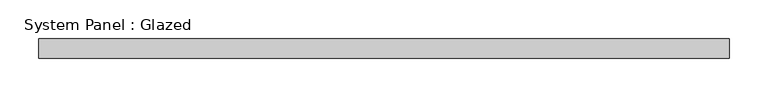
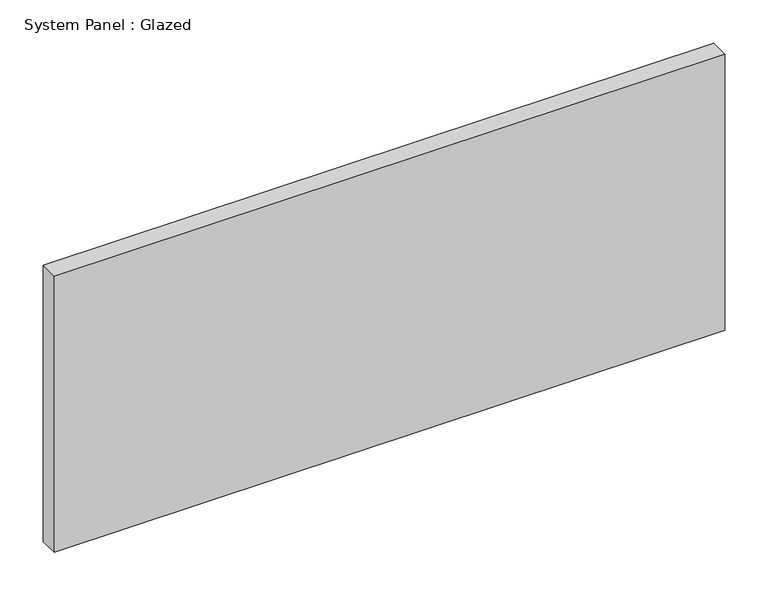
"""IFC4 building model written with IfcOpenShell, lengths in millimetres: plate geometry, System Panel : Glazed."""

from ifc_helpers import new_model, si_unit, origin, origin_with_axes, place, context, project, spatial, polyline, outline, extrude, source, transform, mapped, element, save


def system_panel_glazed_751737c8(model_context):
    return source(origin(), model_context, "Body", "SweptSolid", [
        extrude(outline(polyline([(447.675, 19.05), (-447.675, 19.05), (-447.675, 44.45), (447.675, 44.45), (447.675, 19.05)])), origin_with_axes(), (0.0, 0.0, 1.0), 389.9973635),
    ])


if __name__ == "__main__":
    model = new_model("IFC4")
    model_context = context("Model", 3, world=origin())
    ifc_project = project(units=[si_unit("LENGTHUNIT", "METRE", prefix="MILLI")], contexts=[model_context])
    site = spatial("IfcSite", under=ifc_project)
    building = spatial("IfcBuilding", under=site)
    placement = place(None, origin())
    system_panel_glazed_shape = system_panel_glazed_751737c8(model_context)
    element("IfcPlate", 1, ObjectType="System Panel : Glazed", at=placement, inside=building, context=model_context, shape_type="MappedRepresentation", body=[
        mapped(system_panel_glazed_shape, transform((0.0, 0.0, 0.0), x_axis=(1.0, 0.0, 0.0), y_axis=(0.0, 1.0, 0.0), z_axis=(0.0, 0.0, 1.0))),
    ])
    save(model, "model.ifc")
